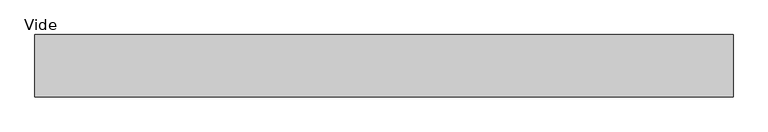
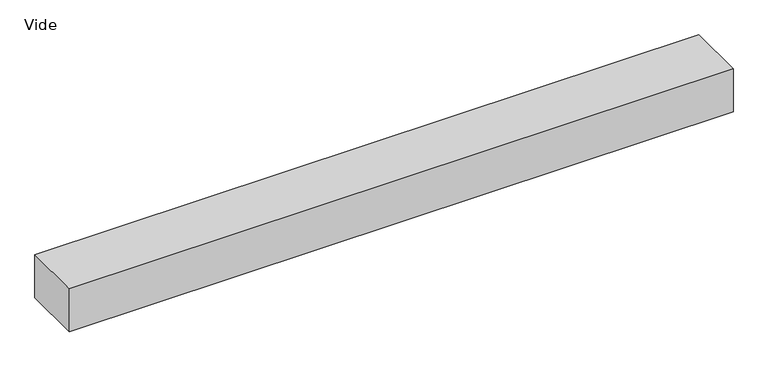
"""IFC4 building model written with IfcOpenShell, lengths in millimetres: plate geometry, Panneau système vide : Vide."""

from ifc_helpers import new_model, si_unit, origin, origin_with_axes, place, context, project, spatial, polyline, outline, extrude, source, transform, mapped, element, save


def vide_395f324f(model_context):
    return source(origin(), model_context, "Body", "SweptSolid", [
        extrude(outline(polyline([(560.0, 50.0), (-560.0, 50.0), (-560.0, 150.0), (560.0, 150.0), (560.0, 50.0)])), origin_with_axes(), (0.0, 0.0, 1.0), 76.4248737),
    ])


if __name__ == "__main__":
    model = new_model("IFC4")
    model_context = context("Model", 3, world=origin())
    ifc_project = project(units=[si_unit("LENGTHUNIT", "METRE", prefix="MILLI")], contexts=[model_context])
    site = spatial("IfcSite", under=ifc_project)
    building = spatial("IfcBuilding", under=site)
    placement = place(None, origin())
    vide_shape = vide_395f324f(model_context)
    element("IfcPlate", 1, ObjectType="Panneau système vide : Vide", at=placement, inside=building, context=model_context, shape_type="MappedRepresentation", body=[
        mapped(vide_shape, transform((0.0, 0.0, 0.0), x_axis=(1.0, 0.0, 0.0), y_axis=(0.0, 1.0, 0.0), z_axis=(0.0, 0.0, 1.0))),
    ])
    save(model, "model.ifc")
